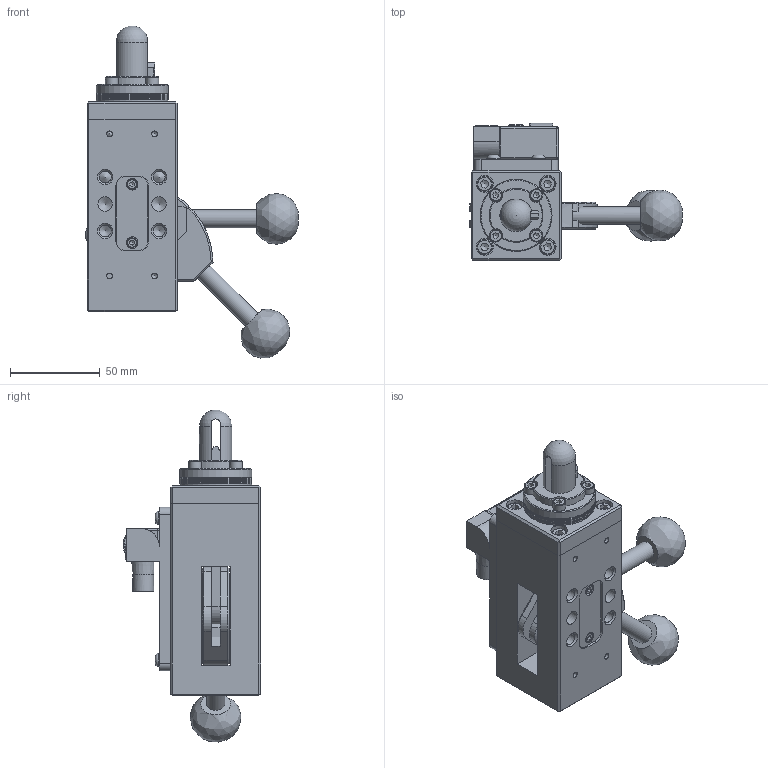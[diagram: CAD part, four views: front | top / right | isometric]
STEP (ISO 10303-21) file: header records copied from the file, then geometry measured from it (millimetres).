
FILE_DESCRIPTION(/* description */ (''),/* implementation_level */ '2;1');
FILE_NAME(/* name */ 'S:\Tom\INVENTOR FILES\AUTOMOTIVE\UNDERBODY CLAMPS\XPCB\SIMPLIFIED MODELS\STEP\XPCB-18-02-NS.stp',/* time_stamp */ '2021-06-08T10:12:35+01:00',/* author */ ('RWilson'),/* organization */ (''),/* preprocessor_version */ 'ST-DEVELOPER v18.1',/* originating_system */ 'Autodesk Inventor 2021',/* authorisation */ '');
FILE_SCHEMA (('AUTOMOTIVE_DESIGN { 1 0 10303 214 3 1 1 }','INTEGRATED_CNC_SCHEMA'));
Length unit declared in the file: millimetre
Products named in the file (10): XPCB-18-02; XPCB - BODY; XPCB - HANDLE; XPCB - TOP PLATE; XPCB - 1MM SHIM; XPCB - 0.5MM SHIM; XPCB - 18MM CLAMPING RING & PIN; XPCB - 18MM HOOK; XPCB - BLANKING COVER; XPCB - SWITCH ASSEMBLY
Assembly tree (14 placements, depth 2):
  XPCB-18-02
    XPCB - BODY
    XPCB - HANDLE  x2
    XPCB - TOP PLATE
    XPCB - 0.5MM SHIM  x2
    XPCB - 1MM SHIM  x3
    XPCB - 18MM CLAMPING RING & PIN
    XPCB - 18MM HOOK
    XPCB - BLANKING COVER  x2
    XPCB - SWITCH ASSEMBLY
Bounding box: 118.37 x 76.31 x 184.64 mm (x, y, z)
Volume: 378444.8 mm3; surface area: 120227.1 mm2
Topology: 14 solids, 28 shells, 894 faces, 2312 edges, 1508 vertices
Faces by surface type: plane 410, cylinder 279, cone 131, torus 29, bspline 24, sphere 21
Full cylindrical faces by diameter (mm): 0.7 x8, 1.7 x1, 1.8 x2, 2 x1, 2.459 x6, 2.5 x3, 2.8 x2, 3 x8, 3.2 x4, 3.242 x8, 4 x8, 4.134 x1, 4.3 x2, 4.5 x4, 4.917 x3, 5 x4, 5.3 x1, 5.5 x4, 6 x3, 6.5 x4, 6.6 x3, 6.647 x12, 7 x4, 7.6 x4, 8 x6, 8.376 x2, 8.5 x5, 9 x3, 9.5 x4, 10 x5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
Entity records: 24491 total; most frequent: CARTESIAN_POINT 5083, DIRECTION 4164, ORIENTED_EDGE 3886, EDGE_CURVE 1943, AXIS2_PLACEMENT_3D 1617, VERTEX_POINT 1314, LINE 930, VECTOR 930
